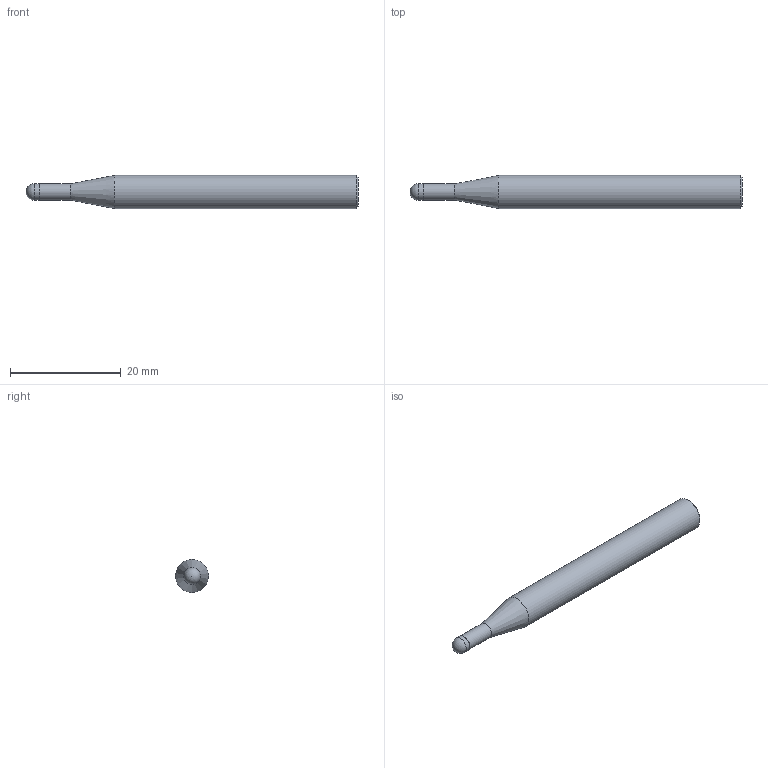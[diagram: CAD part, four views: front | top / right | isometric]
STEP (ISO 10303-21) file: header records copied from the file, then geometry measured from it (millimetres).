
FILE_DESCRIPTION(/* description */ (''),/* implementation_level */ '2;1');
FILE_NAME(/* name */ 'HSXB2030 0660.stp',/* time_stamp */ '2026-08-01T16:35:55+08:00',/* author */ (''),/* organization */ (''),/* preprocessor_version */ 'ST-DEVELOPER v16',/* originating_system */ 'SIEMENS PLM Software NX 10.0',/* authorisation */ '');
FILE_SCHEMA (('CONFIG_CONTROL_DESIGN'));
Length unit declared in the file: millimetre
Products named in the file (1): HSXB2030 0660_dxf
Bounding box: 60 x 6 x 6 mm (x, y, z)
Volume: 1423.4 mm3; surface area: 1055.6 mm2
Topology: 2 solids, 2 shells, 9 faces, 15 edges, 9 vertices
Faces by surface type: plane 3, cylinder 3, cone 2, sphere 1
Full cylindrical faces by diameter (mm): 2.9 x1, 3 x1, 6 x1
Entity records: 246 total; most frequent: DIRECTION 34, CARTESIAN_POINT 24, AXIS2_PLACEMENT_3D 17, EDGE_LOOP 14, ORIENTED_EDGE 14, FACE_BOUND 10, ADVANCED_FACE 9, PERSON_AND_ORGANIZATION 7
